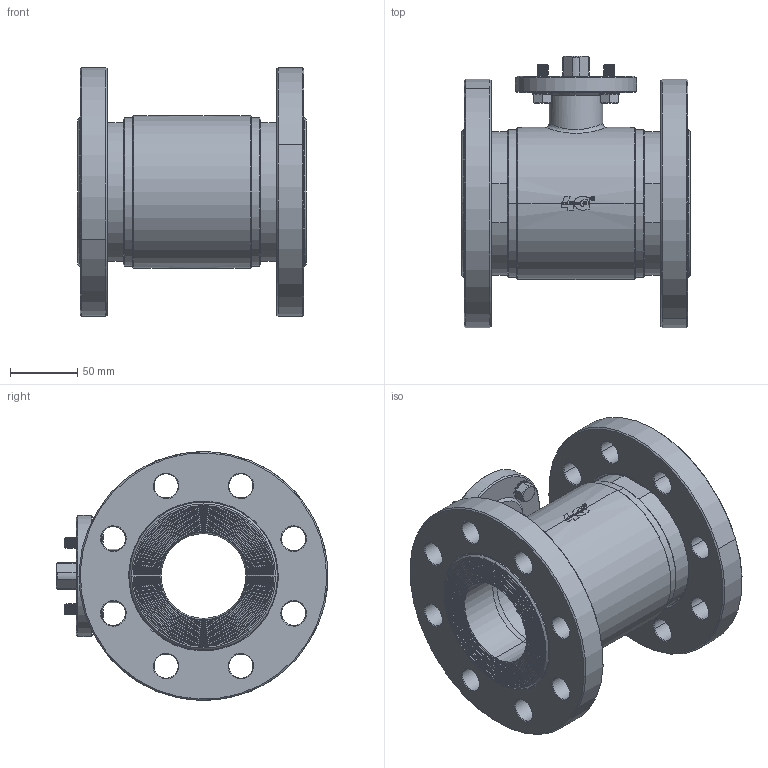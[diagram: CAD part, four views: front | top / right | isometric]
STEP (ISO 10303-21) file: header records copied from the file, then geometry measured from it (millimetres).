
FILE_DESCRIPTION((''),'2;1');
FILE_NAME('PARTE_VUOTA','2022-08-31T14:39:35',('alfio.taboni'),('CDM Tecnoconsulting'),'CREO PARAMETRIC BY PTC INC, 2020053','CREO PARAMETRIC BY PTC INC, 2020053','');
FILE_SCHEMA(('CONFIG_CONTROL_DESIGN','SHAPE_APPEARANCE_LAYERS_GROUPS'));
Products named in the file (1): PARTE_VUOTA
Bounding box: 170 x 201.91 x 184.82 mm (x, y, z)
Volume: 1695633.9 mm3; surface area: 302553.2 mm2
Topology: 1 solids, 11 shells, 1666 faces, 4403 edges, 2822 vertices
Faces by surface type: plane 590, cylinder 481, cone 275, torus 118, extrusion 111, bspline 87, sphere 4
Entity records: 91101 total; most frequent: CARTESIAN_POINT 38641, ORIENTED_EDGE 8786, DIRECTION 7216, PRESENTATION_STYLE_ASSIGNMENT 4394, STYLED_ITEM 4394, CURVE_STYLE 4393, EDGE_CURVE 4393, VERTEX_POINT 2822
